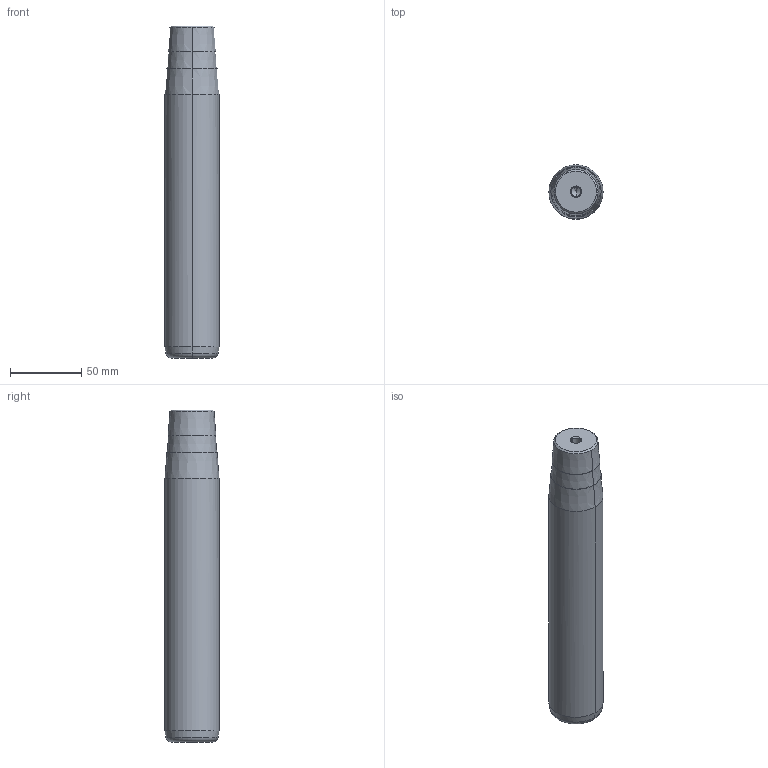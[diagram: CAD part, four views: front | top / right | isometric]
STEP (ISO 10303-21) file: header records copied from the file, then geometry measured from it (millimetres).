
FILE_DESCRIPTION(('CATIA V5 STEP Exchange'),'2;1');
FILE_NAME('C:\Users\Utente\Desktop\IO LAVORO\3D X SITO CF\X SITO\722\722-38x200x233.stp','2021-01-08T16:03:33+00:00',('none'),('none'),'CATIA Version 5 Release 20 GA (IN-10)','CATIA V5 STEP AP203','none');
FILE_SCHEMA(('CONFIG_CONTROL_DESIGN'));
Length unit declared in the file: millimetre
Products named in the file (1): 722-38x200x233
Bounding box: 38 x 38 x 233 mm (x, y, z)
Volume: 251500.6 mm3; surface area: 29943.1 mm2
Topology: 1 solids, 1 shells, 32 faces, 98 edges, 66 vertices
Faces by surface type: cone 22, cylinder 6, plane 2, torus 2
Entity records: 1166 total; most frequent: CARTESIAN_POINT 279, ORIENTED_EDGE 188, DIRECTION 148, EDGE_CURVE 94, AXIS2_PLACEMENT_3D 89, VERTEX_POINT 66, CIRCLE 56, EDGE_LOOP 34
